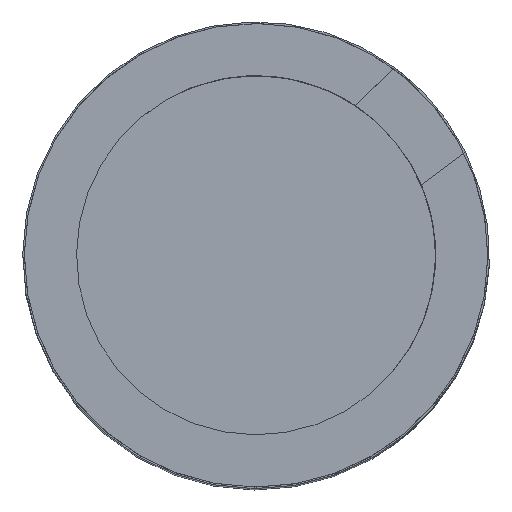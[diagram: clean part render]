
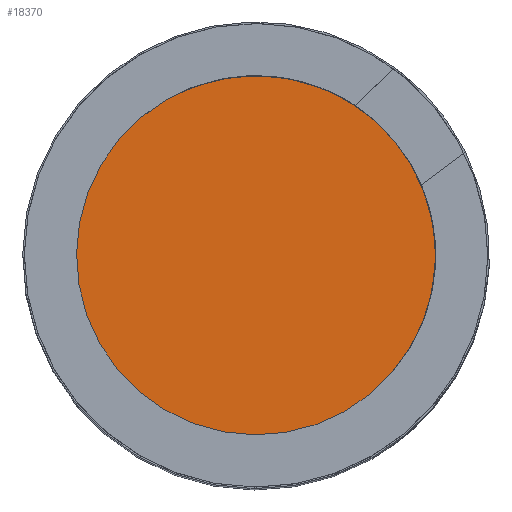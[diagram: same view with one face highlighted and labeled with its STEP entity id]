
A CAD part, top view. The second image highlights one B-rep face of the part: STEP entity #18370.
In plain terms, the highlighted planar face has unit normal (0, 0, 1).
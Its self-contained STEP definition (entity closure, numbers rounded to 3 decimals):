
#537 = DIRECTION ( 'NONE',  ( 0., 0., 1. ) ) ;
#2112 = CIRCLE ( 'NONE', #13424, 17.75 ) ;
#4183 = CARTESIAN_POINT ( 'NONE',  ( -17.75, 0., 0. ) ) ;
#4672 = DIRECTION ( 'NONE',  ( 1., 0., 0. ) ) ;
#5469 = EDGE_CURVE ( 'NONE', #21396, #11614, #24249, .T. ) ;
#7340 = ORIENTED_EDGE ( 'NONE', *, *, #5469, .T. ) ;
#9552 = DIRECTION ( 'NONE',  ( 1., 0., 0. ) ) ;
#10212 = DIRECTION ( 'NONE',  ( 1., 0., 0. ) ) ;
#10793 = EDGE_LOOP ( 'NONE', ( #7340, #22417 ) ) ;
#11614 = VERTEX_POINT ( 'NONE', #4183 ) ;
#13424 = AXIS2_PLACEMENT_3D ( 'NONE', #20150, #16197, #4672 ) ;
#15227 = EDGE_CURVE ( 'NONE', #11614, #21396, #2112, .T. ) ;
#15393 = DIRECTION ( 'NONE',  ( 0., 0., 1. ) ) ;
#16197 = DIRECTION ( 'NONE',  ( 0., 0., 1. ) ) ;
#16883 = AXIS2_PLACEMENT_3D ( 'NONE', #21608, #537, #10212 ) ;
#17253 = AXIS2_PLACEMENT_3D ( 'NONE', #21191, #15393, #9552 ) ;
#18370 = ADVANCED_FACE ( 'NONE', ( #23062 ), #20007, .T. ) ;
#20007 = PLANE ( 'NONE',  #16883 ) ;
#20150 = CARTESIAN_POINT ( 'NONE',  ( 0., 0., 0. ) ) ;
#21191 = CARTESIAN_POINT ( 'NONE',  ( 0., 0., 0. ) ) ;
#21396 = VERTEX_POINT ( 'NONE', #22053 ) ;
#21608 = CARTESIAN_POINT ( 'NONE',  ( 0., 0., 0. ) ) ;
#22053 = CARTESIAN_POINT ( 'NONE',  ( 17.75, 0., 0. ) ) ;
#22417 = ORIENTED_EDGE ( 'NONE', *, *, #15227, .T. ) ;
#23062 = FACE_OUTER_BOUND ( 'NONE', #10793, .T. ) ;
#24249 = CIRCLE ( 'NONE', #17253, 17.75 ) ;
